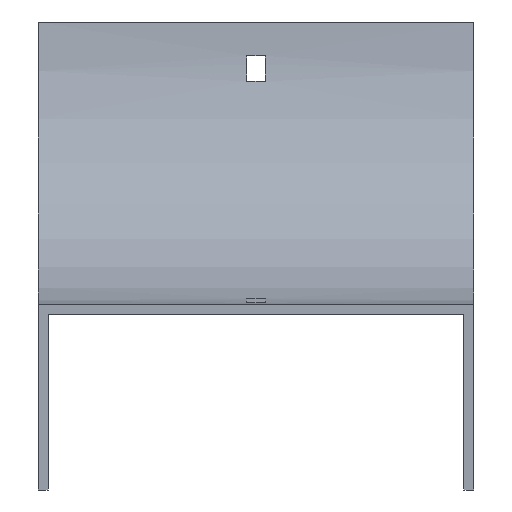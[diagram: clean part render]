
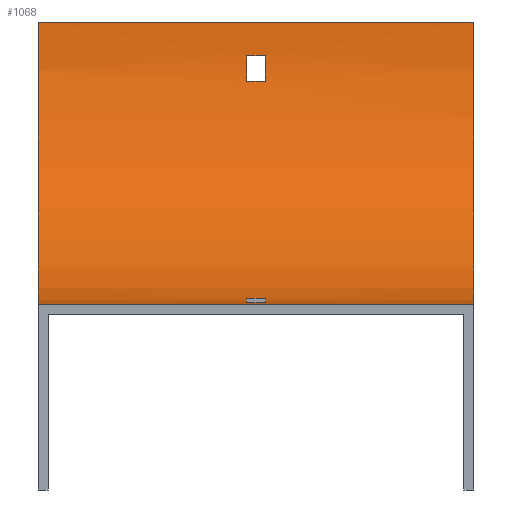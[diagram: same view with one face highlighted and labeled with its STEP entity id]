
A CAD part, front view. The second image highlights one B-rep face of the part: STEP entity #1068.
In plain terms, the highlighted cylindrical face has radius 100 mm (diameter 200 mm), a partial arc.
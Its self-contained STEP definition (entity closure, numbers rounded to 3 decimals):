
#14 = LINE ( 'NONE', #641, #489 ) ;
#16 = DIRECTION ( 'NONE',  ( -1., 0., 0. ) ) ;
#17 = ORIENTED_EDGE ( 'NONE', *, *, #467, .T. ) ;
#27 = DIRECTION ( 'NONE',  ( -1., 0., 0. ) ) ;
#28 = EDGE_CURVE ( 'NONE', #53, #108, #1126, .T. ) ;
#37 = CIRCLE ( 'NONE', #190, 100. ) ;
#41 = CARTESIAN_POINT ( 'NONE',  ( 3.25, -100., 0. ) ) ;
#53 = VERTEX_POINT ( 'NONE', #136 ) ;
#61 = CARTESIAN_POINT ( 'NONE',  ( 3.25, -0.723, -12. ) ) ;
#63 = EDGE_CURVE ( 'NONE', #124, #70, #37, .T. ) ;
#70 = VERTEX_POINT ( 'NONE', #313 ) ;
#88 = EDGE_CURVE ( 'NONE', #174, #53, #113, .T. ) ;
#97 = CARTESIAN_POINT ( 'NONE',  ( 77., -100., -100. ) ) ;
#108 = VERTEX_POINT ( 'NONE', #1144 ) ;
#113 = CIRCLE ( 'NONE', #815, 100. ) ;
#124 = VERTEX_POINT ( 'NONE', #794 ) ;
#136 = CARTESIAN_POINT ( 'NONE',  ( 3.25, -2.23, -21. ) ) ;
#139 = EDGE_CURVE ( 'NONE', #204, #800, #395, .T. ) ;
#174 = VERTEX_POINT ( 'NONE', #61 ) ;
#190 = AXIS2_PLACEMENT_3D ( 'NONE', #579, #486, #832 ) ;
#194 = CARTESIAN_POINT ( 'NONE',  ( -77., -100., -100. ) ) ;
#199 = AXIS2_PLACEMENT_3D ( 'NONE', #365, #16, #361 ) ;
#203 = FACE_OUTER_BOUND ( 'NONE', #871, .T. ) ;
#204 = VERTEX_POINT ( 'NONE', #249 ) ;
#207 = ORIENTED_EDGE ( 'NONE', *, *, #274, .F. ) ;
#221 = DIRECTION ( 'NONE',  ( 0., 0., 1. ) ) ;
#226 = EDGE_CURVE ( 'NONE', #537, #124, #14, .T. ) ;
#240 = CARTESIAN_POINT ( 'NONE',  ( -3.25, -0.723, -12. ) ) ;
#242 = EDGE_CURVE ( 'NONE', #70, #882, #370, .T. ) ;
#246 = ORIENTED_EDGE ( 'NONE', *, *, #63, .F. ) ;
#249 = CARTESIAN_POINT ( 'NONE',  ( 77., 0., 0. ) ) ;
#271 = ORIENTED_EDGE ( 'NONE', *, *, #1081, .F. ) ;
#274 = EDGE_CURVE ( 'NONE', #800, #904, #654, .T. ) ;
#282 = AXIS2_PLACEMENT_3D ( 'NONE', #560, #474, #221 ) ;
#302 = VECTOR ( 'NONE', #506, 1000. ) ;
#313 = CARTESIAN_POINT ( 'NONE',  ( -3.25, -88., -99.277 ) ) ;
#359 = DIRECTION ( 'NONE',  ( -1., 0., 0. ) ) ;
#361 = DIRECTION ( 'NONE',  ( 0., 0., 1. ) ) ;
#365 = CARTESIAN_POINT ( 'NONE',  ( -77., -100., 0. ) ) ;
#370 = LINE ( 'NONE', #562, #636 ) ;
#376 = ORIENTED_EDGE ( 'NONE', *, *, #242, .F. ) ;
#378 = DIRECTION ( 'NONE',  ( 0., -1., 0. ) ) ;
#389 = ORIENTED_EDGE ( 'NONE', *, *, #922, .T. ) ;
#393 = CARTESIAN_POINT ( 'NONE',  ( 77., -2.23, -21. ) ) ;
#394 = DIRECTION ( 'NONE',  ( 1., 0., 0. ) ) ;
#395 = CIRCLE ( 'NONE', #967, 100. ) ;
#402 = ORIENTED_EDGE ( 'NONE', *, *, #1029, .T. ) ;
#407 = CARTESIAN_POINT ( 'NONE',  ( 3.25, -100., 0. ) ) ;
#414 = EDGE_LOOP ( 'NONE', ( #629, #402, #17, #1067 ) ) ;
#455 = LINE ( 'NONE', #612, #841 ) ;
#459 = CARTESIAN_POINT ( 'NONE',  ( 3.25, -88., -99.277 ) ) ;
#467 = EDGE_CURVE ( 'NONE', #772, #174, #698, .T. ) ;
#468 = DIRECTION ( 'NONE',  ( 1., 0., 0. ) ) ;
#470 = FACE_BOUND ( 'NONE', #414, .T. ) ;
#474 = DIRECTION ( 'NONE',  ( 1., 0., 0. ) ) ;
#486 = DIRECTION ( 'NONE',  ( -1., 0., 0. ) ) ;
#489 = VECTOR ( 'NONE', #907, 1000. ) ;
#506 = DIRECTION ( 'NONE',  ( -1., 0., 0. ) ) ;
#513 = ORIENTED_EDGE ( 'NONE', *, *, #938, .T. ) ;
#515 = CARTESIAN_POINT ( 'NONE',  ( 3.25, -79., -97.77 ) ) ;
#537 = VERTEX_POINT ( 'NONE', #515 ) ;
#543 = CIRCLE ( 'NONE', #282, 100. ) ;
#553 = CIRCLE ( 'NONE', #199, 100. ) ;
#560 = CARTESIAN_POINT ( 'NONE',  ( -3.25, -100., 0. ) ) ;
#562 = CARTESIAN_POINT ( 'NONE',  ( 77., -88., -99.277 ) ) ;
#579 = CARTESIAN_POINT ( 'NONE',  ( -3.25, -100., 0. ) ) ;
#581 = VECTOR ( 'NONE', #27, 1000. ) ;
#612 = CARTESIAN_POINT ( 'NONE',  ( 77., 0., 0. ) ) ;
#629 = ORIENTED_EDGE ( 'NONE', *, *, #28, .T. ) ;
#636 = VECTOR ( 'NONE', #468, 1000. ) ;
#641 = CARTESIAN_POINT ( 'NONE',  ( 77., -79., -97.77 ) ) ;
#654 = LINE ( 'NONE', #97, #581 ) ;
#683 = CARTESIAN_POINT ( 'NONE',  ( -77., 0., 0. ) ) ;
#693 = CARTESIAN_POINT ( 'NONE',  ( 77., -0.723, -12. ) ) ;
#698 = LINE ( 'NONE', #693, #1016 ) ;
#701 = EDGE_LOOP ( 'NONE', ( #246, #1065, #271, #376 ) ) ;
#736 = FACE_BOUND ( 'NONE', #701, .T. ) ;
#739 = CIRCLE ( 'NONE', #889, 100. ) ;
#772 = VERTEX_POINT ( 'NONE', #240 ) ;
#778 = AXIS2_PLACEMENT_3D ( 'NONE', #1100, #833, #1015 ) ;
#782 = DIRECTION ( 'NONE',  ( -1., 0., 0. ) ) ;
#794 = CARTESIAN_POINT ( 'NONE',  ( -3.25, -79., -97.77 ) ) ;
#800 = VERTEX_POINT ( 'NONE', #1048 ) ;
#801 = DIRECTION ( 'NONE',  ( -1., 0., 0. ) ) ;
#815 = AXIS2_PLACEMENT_3D ( 'NONE', #407, #782, #1070 ) ;
#819 = VERTEX_POINT ( 'NONE', #683 ) ;
#832 = DIRECTION ( 'NONE',  ( 0., 1., 0. ) ) ;
#833 = DIRECTION ( 'NONE',  ( -1., 0., 0. ) ) ;
#841 = VECTOR ( 'NONE', #801, 1000. ) ;
#849 = ORIENTED_EDGE ( 'NONE', *, *, #139, .F. ) ;
#854 = DIRECTION ( 'NONE',  ( 0., 0., 1. ) ) ;
#871 = EDGE_LOOP ( 'NONE', ( #389, #207, #849, #513 ) ) ;
#882 = VERTEX_POINT ( 'NONE', #459 ) ;
#889 = AXIS2_PLACEMENT_3D ( 'NONE', #41, #394, #378 ) ;
#904 = VERTEX_POINT ( 'NONE', #194 ) ;
#907 = DIRECTION ( 'NONE',  ( -1., 0., 0. ) ) ;
#922 = EDGE_CURVE ( 'NONE', #819, #904, #553, .T. ) ;
#938 = EDGE_CURVE ( 'NONE', #204, #819, #455, .T. ) ;
#952 = CARTESIAN_POINT ( 'NONE',  ( 77., -100., 0. ) ) ;
#967 = AXIS2_PLACEMENT_3D ( 'NONE', #952, #359, #854 ) ;
#970 = DIRECTION ( 'NONE',  ( 1., 0., 0. ) ) ;
#1015 = DIRECTION ( 'NONE',  ( 0., 0., 1. ) ) ;
#1016 = VECTOR ( 'NONE', #970, 1000. ) ;
#1029 = EDGE_CURVE ( 'NONE', #108, #772, #543, .T. ) ;
#1048 = CARTESIAN_POINT ( 'NONE',  ( 77., -100., -100. ) ) ;
#1065 = ORIENTED_EDGE ( 'NONE', *, *, #226, .F. ) ;
#1067 = ORIENTED_EDGE ( 'NONE', *, *, #88, .T. ) ;
#1068 = ADVANCED_FACE ( 'NONE', ( #203, #470, #736 ), #1096, .F. ) ;
#1070 = DIRECTION ( 'NONE',  ( 0., 0., -1. ) ) ;
#1081 = EDGE_CURVE ( 'NONE', #882, #537, #739, .T. ) ;
#1096 = CYLINDRICAL_SURFACE ( 'NONE', #778, 100. ) ;
#1100 = CARTESIAN_POINT ( 'NONE',  ( 77., -100., 0. ) ) ;
#1126 = LINE ( 'NONE', #393, #302 ) ;
#1144 = CARTESIAN_POINT ( 'NONE',  ( -3.25, -2.23, -21. ) ) ;
